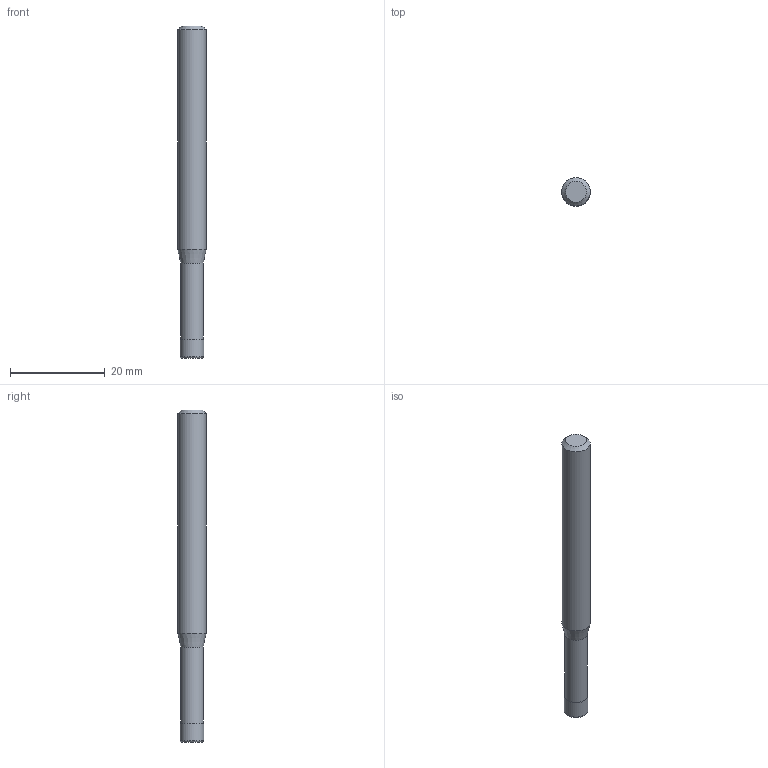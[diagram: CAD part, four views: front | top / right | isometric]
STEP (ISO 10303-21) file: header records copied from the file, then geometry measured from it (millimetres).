
FILE_DESCRIPTION((''),'2;1');
FILE_NAME('C:\Users\nsx150\AppData\Local\Temp\Mastercam 2021\3SYKECWX22\TEMP.step','2021-04-22T09:52:06',(''),(''),'STEP Write','Mastercam 2021 ... CNC Software, Inc.','');
FILE_SCHEMA(('AUTOMOTIVE_DESIGN'));
Length unit declared in the file: millimetre
Products named in the file (1): None
Bounding box: 6 x 6 x 70 mm (x, y, z)
Volume: 1753.9 mm3; surface area: 1312.9 mm2
Topology: 2 solids, 2 shells, 10 faces, 14 edges, 8 vertices
Faces by surface type: plane 4, cylinder 3, cone 2, torus 1
Full cylindrical faces by diameter (mm): 4.75 x1, 5 x1, 6 x1
Entity records: 232 total; most frequent: DIRECTION 40, CARTESIAN_POINT 28, AXIS2_PLACEMENT_3D 20, ORIENTED_EDGE 16, EDGE_LOOP 16, STYLED_ITEM 13, ADVANCED_FACE 10, FACE_BOUND 10
